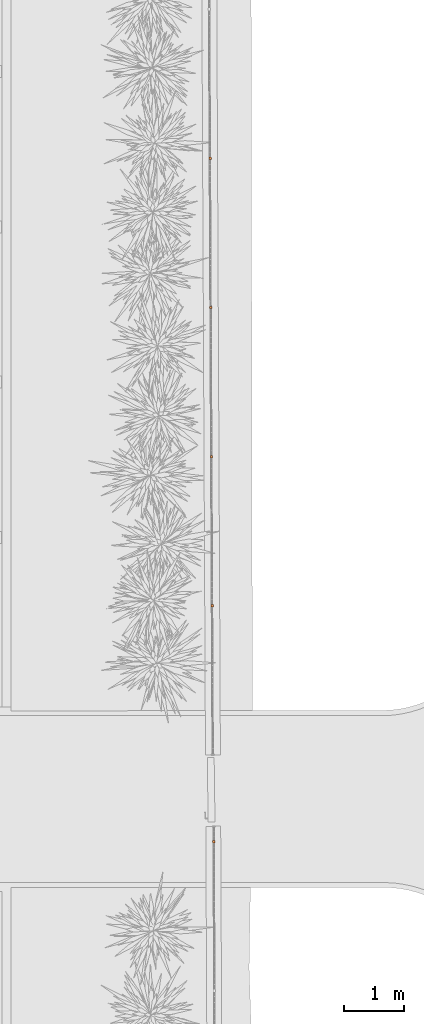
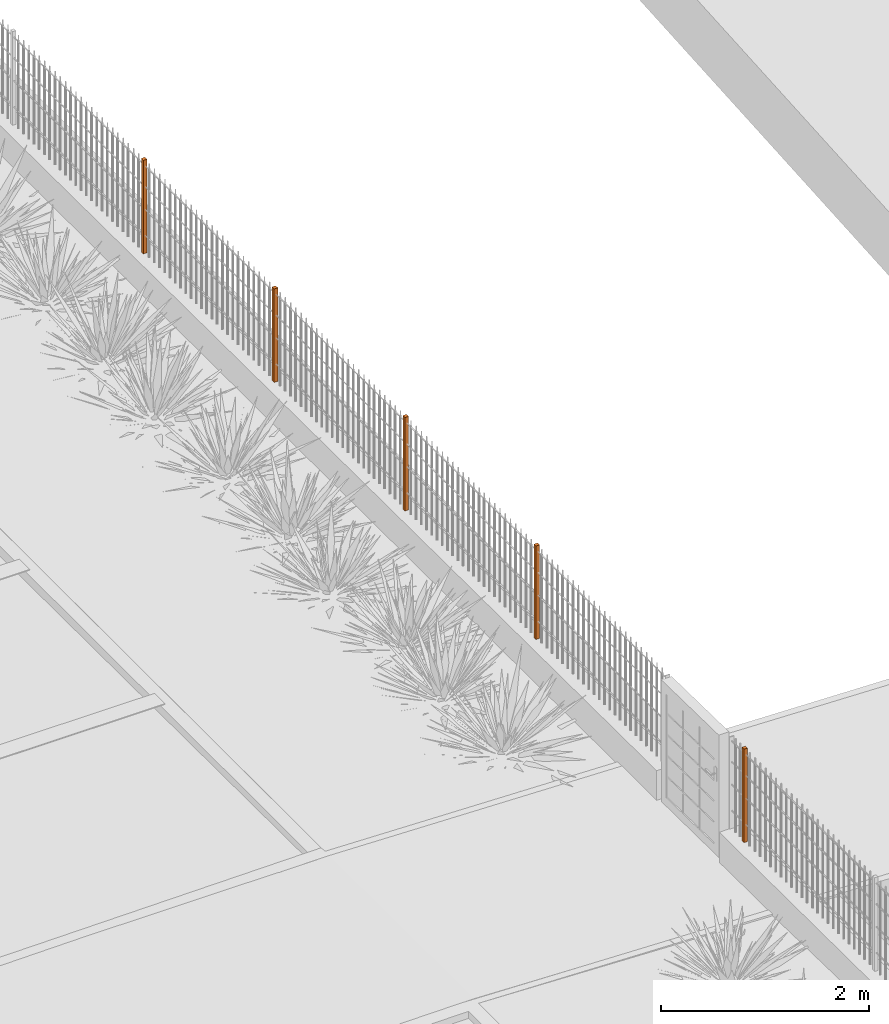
# One storey, part 29 of 1809: 5 proxies, 2 elements without a shape of their own.
"""IFC2X3 building model written with IfcOpenShell, lengths in millimetres."""

from ifc_helpers import new_model, entity, si_unit, converted_unit, derived_unit, money_unit, direction, frame, origin_with_axes, place, context, subcontext, project, spatial, faceted_brep, source, transform, mapped, material, type_object, element, aggregate, save


model = new_model("IFC2X3")

# Units and contexts
model_context = context("Model", 3, precision=0.01, world=origin_with_axes(), true_north=direction((0.0, 1.0)))
body_context = subcontext(model_context, "Body", "Model", "MODEL_VIEW")
ifc_project = project(units=[si_unit("LENGTHUNIT", "METRE", prefix="MILLI"), si_unit("AREAUNIT", "SQUARE_METRE"), si_unit("VOLUMEUNIT", "CUBIC_METRE"), converted_unit("PLANEANGLEUNIT", "DEGREE", entity("IfcPlaneAngleMeasure", 0.0174532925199), si_unit("PLANEANGLEUNIT", "RADIAN"), dimensions=[0, 0, 0, 0, 0, 0, 0]), si_unit("SOLIDANGLEUNIT", "STERADIAN"), money_unit("EUR"), converted_unit("TIMEUNIT", "Year", entity("IfcTimeMeasure", 31556926.0), si_unit("TIMEUNIT", "SECOND"), dimensions=[0, 0, 1, 0, 0, 0, 0]), si_unit("MASSUNIT", "GRAM", prefix="KILO"), si_unit("THERMODYNAMICTEMPERATUREUNIT", "DEGREE_CELSIUS"), si_unit("LUMINOUSINTENSITYUNIT", "LUMEN"), si_unit("ENERGYUNIT", "JOULE", prefix="MEGA"), derived_unit("THERMALCONDUCTANCEUNIT", [(si_unit("POWERUNIT", "WATT"), 1), (si_unit("LENGTHUNIT", "METRE"), -1), (si_unit("THERMODYNAMICTEMPERATUREUNIT", "KELVIN"), -1)]), derived_unit("SPECIFICHEATCAPACITYUNIT", [(si_unit("ENERGYUNIT", "JOULE"), 1), (si_unit("MASSUNIT", "GRAM", prefix="KILO"), -1), (si_unit("THERMODYNAMICTEMPERATUREUNIT", "KELVIN"), -1)]), derived_unit("MASSDENSITYUNIT", [(si_unit("MASSUNIT", "GRAM", prefix="KILO"), 1), (si_unit("VOLUMEUNIT", "CUBIC_METRE"), -1)])], contexts=[model_context])

# Site, building, storey
site_placement = place(None, origin_with_axes())
site = spatial("IfcSite", under=ifc_project, at=site_placement, Name="Politse- ja Piirivalveameti ning Päästeameti ühishoone", CompositionType="ELEMENT")
building_placement = place(site_placement, origin_with_axes())
building = spatial("IfcBuilding", under=site, at=building_placement, Name="Politse- ja Piirivalveameti ning Päästeameti ühishoone", CompositionType="ELEMENT")
storey_placement = place(building_placement, origin_with_axes())
storey = spatial("IfcBuildingStorey", under=building, at=storey_placement, Name="Esimene korrus", CompositionType="ELEMENT", Elevation=0.0)

# Proxies
building_element_proxy_type_1 = type_object("IfcBuildingElementProxyType", Name="Railing Type", PredefinedType="NOTDEFINED")
proxy_1_placement = place(storey_placement, frame((88797.9754601, 13797.9382952, 177.658412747), z_axis=(0.0, 0.0, 1.0), x_axis=(1.0, 0.0, 0.0)))
proxy_1 = element("IfcBuildingElementProxy", 1, at=proxy_1_placement, inside=storey, type_object=building_element_proxy_type_1, Name="PIIRDEAED")
ifc_material = material(Name="ET-03_Raud")
building_element_proxy_type_2 = type_object("IfcBuildingElementProxyType", Name="IfcBuildingElementProxy", PredefinedType="NOTDEFINED")
shared_shape_1 = source(origin_with_axes(), body_context, "Body", "Brep", [
    faceted_brep([(20.0, 20.0, 0.0), (-20.0, 20.0, 0.0), (-20.0, 20.0, 1100.0), (20.0, 20.0, 1100.0), (20.0, -20.0, 0.0), (-20.0, -20.0, 0.0), (-20.0, -20.0, 1100.0), (20.0, -20.0, 1100.0)], [[[0, 1, 2, 3]], [[0, 4, 5, 1]], [[1, 5, 6, 2]], [[3, 2, 6, 7]], [[4, 0, 3, 7]], [[5, 4, 7, 6]]]),
])
proxy_2_placement = place(proxy_1_placement, frame((341.479185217, 2448.35505787, 0.0), z_axis=(0.0, 0.0, 1.0), x_axis=(1.0, 0.0, 0.0)))
proxy_2 = element("IfcBuildingElementProxy", 2, at=proxy_2_placement, type_object=building_element_proxy_type_2, material=ifc_material, Name="SISEPOST - 001", context=body_context, shape_type="MappedRepresentation", body=[
    mapped(shared_shape_1, transform((0.0, 0.0, 0.0), x_axis=(0.999988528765, 0.00478981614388, 0.0), y_axis=(-0.00478981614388, 0.999988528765, 0.0), z_axis=(0.0, 0.0, 1.0))),
])
proxy_3_placement = place(proxy_1_placement, frame((305.555564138, 9948.26902361, 0.0), z_axis=(0.0, 0.0, 1.0), x_axis=(1.0, 0.0, 0.0)))
proxy_3 = element("IfcBuildingElementProxy", 3, at=proxy_3_placement, type_object=building_element_proxy_type_2, material=ifc_material, Name="SISEPOST - 001", context=body_context, shape_type="MappedRepresentation", body=[
    mapped(shared_shape_1, transform((0.0, 0.0, 0.0), x_axis=(0.999988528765, 0.00478981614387, 0.0), y_axis=(-0.00478981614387, 0.999988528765, 0.0), z_axis=(0.0, 0.0, 1.0))),
])

proxy_4_placement = place(storey_placement, frame((89043.651518, -14151.4414674, 177.658425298), z_axis=(0.0, 0.0, 1.0), x_axis=(1.0, 0.0, 0.0)))
proxy_4 = element("IfcBuildingElementProxy", 4, at=proxy_4_placement, inside=storey, type_object=building_element_proxy_type_1, Name="PIIRDEAED")
proxy_5_placement = place(proxy_4_placement, frame((124.912751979, 26441.197066, 0.0), z_axis=(0.0, 0.0, 1.0), x_axis=(1.0, 0.0, 0.0)))
proxy_5 = element("IfcBuildingElementProxy", 5, at=proxy_5_placement, type_object=building_element_proxy_type_2, material=ifc_material, Name="SISEPOST - 001", context=body_context, shape_type="MappedRepresentation", body=[
    mapped(shared_shape_1, transform((0.0, 0.0, 0.0), x_axis=(0.999992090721, 0.00397724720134, 0.0), y_axis=(-0.00397724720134, 0.999992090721, 0.0), z_axis=(0.0, 0.0, 1.0))),
])
aggregate(proxy_4, [proxy_5])

# Proxy
shared_shape_2 = source(origin_with_axes(), body_context, "Body", "Brep", [
    faceted_brep([(20.0, 20.0, 0.0), (-20.0, 20.0, 0.0), (-20.0, 20.0, 1100.0), (20.0, 20.0, 1100.0), (20.0, -20.0, 0.0), (-20.0, -20.0, 0.0), (-20.0, -20.0, 1100.0), (20.0, -20.0, 1100.0)], [[[0, 1, 2, 3]], [[0, 4, 5, 1]], [[1, 5, 6, 2]], [[3, 2, 6, 7]], [[4, 0, 3, 7]], [[5, 4, 7, 6]]]),
])
proxy_6_placement = place(proxy_1_placement, frame((329.504644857, 4948.32637978, 0.0), z_axis=(0.0, 0.0, 1.0), x_axis=(1.0, 0.0, 0.0)))
proxy_6 = element("IfcBuildingElementProxy", 6, at=proxy_6_placement, type_object=building_element_proxy_type_2, material=ifc_material, Name="SISEPOST - 001", context=body_context, shape_type="MappedRepresentation", body=[
    mapped(shared_shape_2, transform((0.0, 0.0, 0.0), x_axis=(0.999988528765, 0.00478981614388, 0.0), y_axis=(-0.00478981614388, 0.999988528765, 0.0), z_axis=(0.0, 0.0, 1.0))),
])

proxy_7_placement = place(proxy_1_placement, frame((317.530104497, 7448.29770169, 0.0), z_axis=(0.0, 0.0, 1.0), x_axis=(1.0, 0.0, 0.0)))
proxy_7 = element("IfcBuildingElementProxy", 7, at=proxy_7_placement, type_object=building_element_proxy_type_2, material=ifc_material, Name="SISEPOST - 001", context=body_context, shape_type="MappedRepresentation", body=[
    mapped(shared_shape_2, transform((0.0, 0.0, 0.0), x_axis=(0.999988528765, 0.00478981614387, 0.0), y_axis=(-0.00478981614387, 0.999988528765, 0.0), z_axis=(0.0, 0.0, 1.0))),
])

aggregate(proxy_1, [proxy_2, proxy_6, proxy_7, proxy_3])

save(model, "model.ifc")
